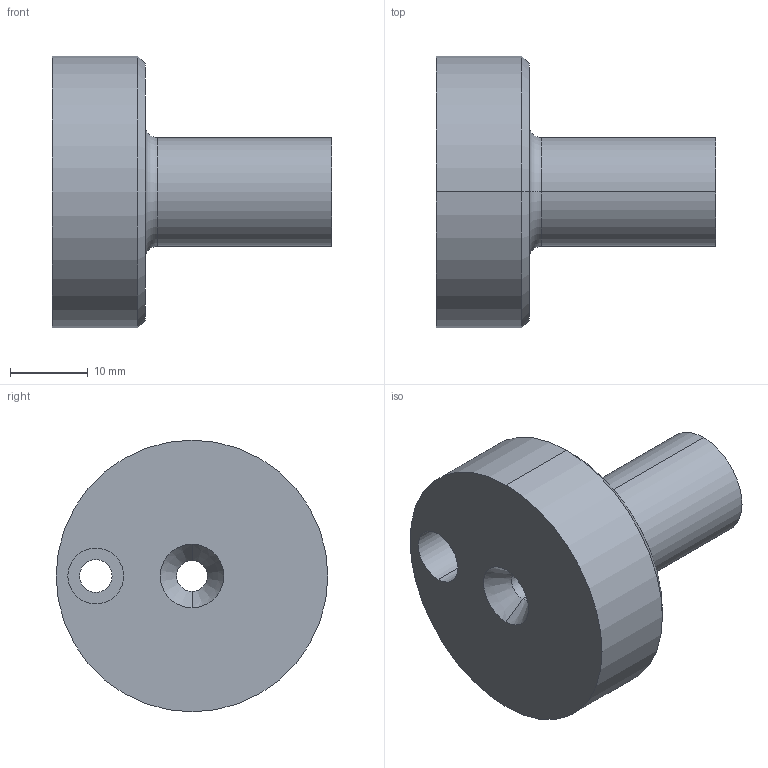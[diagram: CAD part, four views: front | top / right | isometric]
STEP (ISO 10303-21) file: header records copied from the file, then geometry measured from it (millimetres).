
FILE_DESCRIPTION (( 'STEP AP214' ), '1' );
FILE_NAME ('B1 12x36.STEP', '2019-05-22T10:39:02', ( 'August' ), ( '' ), 'SwSTEP 2.0', 'SolidWorks 2018', '' );
FILE_SCHEMA (( 'AUTOMOTIVE_DESIGN' ));
Length unit declared in the file: millimetre
Products named in the file (1): B1 12x36
Bounding box: 36 x 35 x 35 mm (x, y, z)
Volume: 14117 mm3; surface area: 4904.6 mm2
Topology: 1 solids, 1 shells, 20 faces, 42 edges, 26 vertices
Faces by surface type: cylinder 8, cone 6, plane 4, torus 2
Entity records: 588 total; most frequent: DIRECTION 112, CARTESIAN_POINT 89, ORIENTED_EDGE 84, AXIS2_PLACEMENT_3D 49, EDGE_CURVE 42, CIRCLE 28, VERTEX_POINT 26, EDGE_LOOP 26
